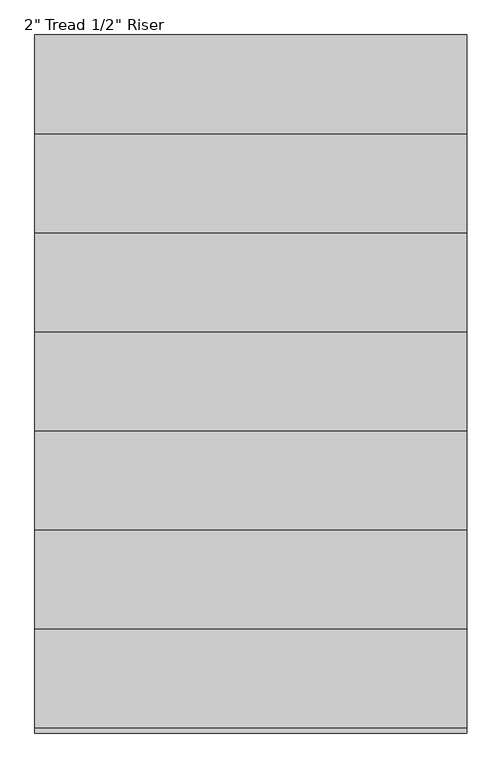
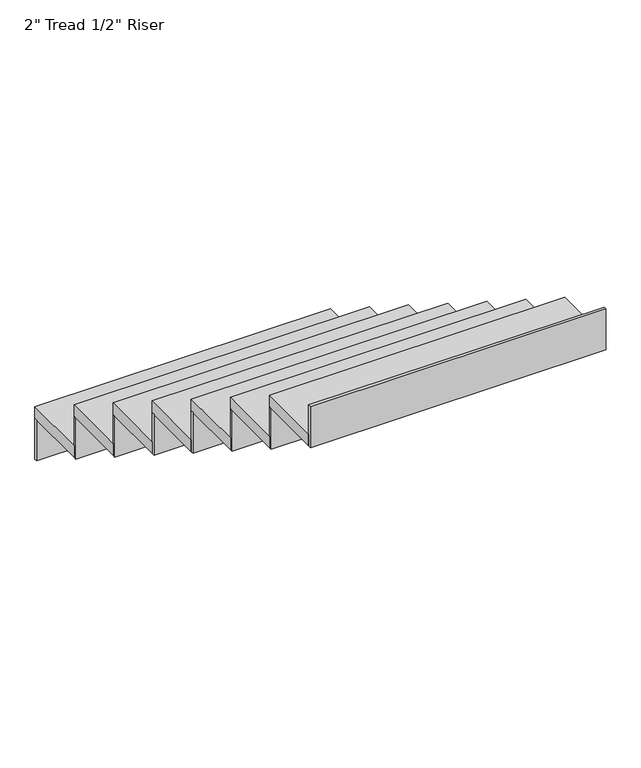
"""IFC4 building model written with IfcOpenShell, lengths in millimetres: stair flight geometry."""

import ifcopenshell
import ifcopenshell.guid

model = None  # the IFC model being written
_history = None  # IfcOwnerHistory: only IFC2X3 demands one
_inside = {}  # id of a spatial element -> (the spatial element, [elements in it])
_under = {}  # id of a project, library or spatial element -> (it, [spatial elements below it])
_declared = {}  # id of a project -> (the project, [libraries it declares])
_typed = {}  # id of a type object -> (the type object, [elements of that type])
_made_of = {}  # id of a material, layer set ... -> (it, [elements and type objects made of it])


def new_model(schema):
    """Start an empty IFC model of exactly this schema.

    Asked for "IFC4X3", IfcOpenShell would pick the latest addendum, in which some entities
    have other attributes; the version numbers below select the first issue.
    IFC2X3 requires an IfcOwnerHistory on every rooted entity: one is made here for all.
    """
    global model, _history
    if schema == "IFC4X3":
        model = ifcopenshell.file(schema_version=(4, 3, 0, 0))
    else:
        model = ifcopenshell.file(schema=schema)
    _inside.clear()
    _under.clear()
    _declared.clear()
    _typed.clear()
    _made_of.clear()
    _history = None
    if model.schema == "IFC2X3":
        org = make("IfcOrganization", Name="unknown")
        user = make(
            "IfcPersonAndOrganization",
            ThePerson=make("IfcPerson", FamilyName="unknown"),
            TheOrganization=org,
        )
        app = make(
            "IfcApplication",
            ApplicationDeveloper=org,
            Version="unknown",
            ApplicationFullName="unknown",
            ApplicationIdentifier="unknown",
        )
        _history = make(
            "IfcOwnerHistory",
            OwningUser=user,
            OwningApplication=app,
            ChangeAction="ADDED",
            CreationDate=0,
        )
    return model


def make(cls, **values):
    """One entity of the class cls with the attributes given. An attribute that is None is left unset."""
    return model.create_entity(
        cls, **{name: value for name, value in values.items() if value is not None}
    )


def rooted(cls, **values):
    """An entity with a GlobalId (a new one), such as an element, a storey or a relation."""
    return make(cls, GlobalId=ifcopenshell.guid.new(), OwnerHistory=_history, **values)


def si_unit(unit_type, name, prefix=None):
    """IfcSIUnit, for example si_unit("LENGTHUNIT", "METRE", prefix="MILLI")."""
    return make("IfcSIUnit", UnitType=unit_type, Prefix=prefix, Name=name)


def assignment(units):
    """IfcUnitAssignment: the units of a project."""
    return None if units is None else make("IfcUnitAssignment", Units=units)


def point(xyz):
    """IfcCartesianPoint."""
    return None if xyz is None else make("IfcCartesianPoint", Coordinates=xyz)


def direction(xyz):
    """IfcDirection."""
    return None if xyz is None else make("IfcDirection", DirectionRatios=xyz)


def frame(location, z_axis=None, x_axis=None):
    """IfcAxis2Placement3D, a coordinate frame: its origin and axes. An axis left out is left unset."""
    return make(
        "IfcAxis2Placement3D",
        Location=point(location),
        Axis=direction(z_axis),
        RefDirection=direction(x_axis),
    )


def origin():
    """The frame at (0, 0, 0) with its axes left unset."""
    return frame((0.0, 0.0, 0.0))


def place(relative_to, where):
    """IfcLocalPlacement: puts the frame where relative to a parent placement (None: the world)."""
    return make(
        "IfcLocalPlacement", PlacementRelTo=relative_to, RelativePlacement=where
    )


def context(
    kind, dimensions, precision=None, world=None, true_north=None, identifier=None
):
    """IfcGeometricRepresentationContext, for example the 3D "Model" context."""
    return make(
        "IfcGeometricRepresentationContext",
        ContextIdentifier=identifier,
        ContextType=kind,
        CoordinateSpaceDimension=dimensions,
        Precision=precision,
        WorldCoordinateSystem=world,
        TrueNorth=true_north,
    )


def project(units=None, contexts=None):
    """IfcProject with its units and contexts."""
    return rooted(
        "IfcProject",
        Name="project",
        RepresentationContexts=contexts,
        UnitsInContext=assignment(units),
    )


def spatial(cls, under=None, at=None, **own):
    """A site, building, storey or space (cls), placed at a placement, below another one or the project."""
    s = rooted(cls, ObjectPlacement=at, **own)
    if under is not None:
        _under.setdefault(under.id(), (under, []))[1].append(s)
    return s


def polyline(points):
    """IfcPolyline through the points."""
    return make("IfcPolyline", Points=[point(p) for p in points])


def outline(outer, holes=None, kind="AREA"):
    """IfcArbitraryClosedProfileDef: a profile drawn as a closed curve; with holes, ...WithVoids."""
    if holes is None:
        return make("IfcArbitraryClosedProfileDef", ProfileType=kind, OuterCurve=outer)
    return make(
        "IfcArbitraryProfileDefWithVoids",
        ProfileType=kind,
        OuterCurve=outer,
        InnerCurves=holes,
    )


def extrude(swept, where, along, depth):
    """IfcExtrudedAreaSolid: the profile swept, set in the frame where, extruded along a direction by depth."""
    return make(
        "IfcExtrudedAreaSolid",
        SweptArea=swept,
        Position=where,
        ExtrudedDirection=direction(along),
        Depth=depth,
    )


def shape(context_of_items, identifier, shape_type, items):
    """IfcShapeRepresentation: the items that make up one representation, for example the "Body"."""
    return make(
        "IfcShapeRepresentation",
        ContextOfItems=context_of_items,
        RepresentationIdentifier=identifier,
        RepresentationType=shape_type,
        Items=items,
    )


def source(mapping_origin, context_of_items, identifier, shape_type, items):
    """IfcRepresentationMap: a shape defined once, which mapped items show again and again."""
    return make(
        "IfcRepresentationMap",
        MappingOrigin=mapping_origin,
        MappedRepresentation=shape(context_of_items, identifier, shape_type, items),
    )


def transform(
    local_origin,
    x_axis=None,
    y_axis=None,
    z_axis=None,
    scale=None,
    scale2=None,
    scale3=None,
    uniform=True,
):
    """IfcCartesianTransformationOperator3D, or its non-uniform kind. x_axis, y_axis, z_axis: its Axis1, 2, 3."""
    if uniform:
        return make(
            "IfcCartesianTransformationOperator3D",
            Axis1=direction(x_axis),
            Axis2=direction(y_axis),
            LocalOrigin=point(local_origin),
            Scale=scale,
            Axis3=direction(z_axis),
        )
    return make(
        "IfcCartesianTransformationOperator3DnonUniform",
        Axis1=direction(x_axis),
        Axis2=direction(y_axis),
        LocalOrigin=point(local_origin),
        Scale=scale,
        Axis3=direction(z_axis),
        Scale2=scale2,
        Scale3=scale3,
    )


def mapped(mapping_source, mapping_target):
    """IfcMappedItem: shows the shape of a source again, moved by a transform."""
    return make(
        "IfcMappedItem", MappingSource=mapping_source, MappingTarget=mapping_target
    )


def made_of(thing, what):
    """Note that an element or type object is made of a material, layer set ...; save() writes the relation."""
    if what is not None:
        _made_of.setdefault(what.id(), (what, []))[1].append(thing)
    return thing


def element(
    cls,
    number,
    at=None,
    inside=None,
    cuts=None,
    type_object=None,
    material=None,
    context=None,
    identifier="Body",
    shape_type=None,
    held_by="IfcProductDefinitionShape",
    body=None,
    shapes=None,
    **own,
):
    """One element of the class cls, such as IfcWall. Its Tag is "e" and its number.

    at: its placement. inside: the storey or other place that contains it. cuts: it is an
    opening in that element (IfcRelVoidsElement). A single representation is given by context,
    identifier, shape_type and body (its items); several are given by shapes. held_by: the class
    of the entity that holds the representations. save() writes the other relations.
    """
    e = rooted(cls, Tag="e%d" % number, ObjectPlacement=at, **own)
    if body is not None:
        shapes = [shape(context, identifier, shape_type, body)]
    if shapes is not None:
        e.Representation = make(held_by, Representations=shapes)
    if inside is not None:
        _inside.setdefault(inside.id(), (inside, []))[1].append(e)
    if cuts is not None:
        rooted(
            "IfcRelVoidsElement", RelatingBuildingElement=cuts, RelatedOpeningElement=e
        )
    if type_object is not None:
        _typed.setdefault(type_object.id(), (type_object, []))[1].append(e)
    return made_of(e, material)


def aggregate(whole, parts):
    """IfcRelAggregates: a whole, such as a stair, and the parts it consists of."""
    return rooted("IfcRelAggregates", RelatingObject=whole, RelatedObjects=parts)


def save(model, path):
    """Write the relations noted so far, then the file.

    IfcRelAggregates (storeys below a building ...), IfcRelContainedInSpatialStructure (elements
    in a storey), IfcRelDefinesByType, IfcRelAssociatesMaterial and IfcRelDeclares: one each for
    every whole, place, type object, material and project.
    """
    for whole, parts in _under.values():
        aggregate(whole, parts)
    for where, things in _inside.values():
        rooted(
            "IfcRelContainedInSpatialStructure",
            RelatedElements=things,
            RelatingStructure=where,
        )
    for kind, things in _typed.values():
        rooted("IfcRelDefinesByType", RelatedObjects=things, RelatingType=kind)
    for what, things in _made_of.values():
        rooted("IfcRelAssociatesMaterial", RelatedObjects=things, RelatingMaterial=what)
    for by, libraries in _declared.values():
        rooted("IfcRelDeclares", RelatingContext=by, RelatedDefinitions=libraries)
    model.write(path)


def stair_flight_03273884(model_context):
    return source(origin(), model_context, "Body", "SweptSolid", [
        extrude(outline(polyline([(-8213.206756, 9925.1006), (-8213.206756, 9937.8006), (-6994.006756, 9937.8006), (-6994.006756, 9925.1006), (-8213.206756, 9925.1006)])), frame((0.0, 0.0, 1371.6), z_axis=(0.0, 0.0, 1.0), x_axis=(1.0, 0.0, 0.0)), (0.0, 0.0, 1.0), 177.8),
        extrude(outline(polyline([(-6994.006756, 9658.4006), (-8213.206756, 9658.4006), (-8213.206756, 9937.8006), (-6994.006756, 9937.8006), (-6994.006756, 9658.4006)])), frame((0.0, 0.0, 1549.4), z_axis=(0.0, 0.0, 1.0), x_axis=(1.0, 0.0, 0.0)), (0.0, 0.0, 1.0), 50.8),
        extrude(outline(polyline([(-8213.206756, 9645.7006), (-8213.206756, 9658.4006), (-6994.006756, 9658.4006), (-6994.006756, 9645.7006), (-8213.206756, 9645.7006)])), frame((0.0, 0.0, 1549.4), z_axis=(0.0, 0.0, 1.0), x_axis=(1.0, 0.0, 0.0)), (0.0, 0.0, 1.0), 177.8),
        extrude(outline(polyline([(-6994.006756, 9379.0006), (-8213.206756, 9379.0006), (-8213.206756, 9658.4006), (-6994.006756, 9658.4006), (-6994.006756, 9379.0006)])), frame((0.0, 0.0, 1727.2), z_axis=(0.0, 0.0, 1.0), x_axis=(1.0, 0.0, 0.0)), (0.0, 0.0, 1.0), 50.8),
        extrude(outline(polyline([(-8213.206756, 9366.3006), (-8213.206756, 9379.0006), (-6994.006756, 9379.0006), (-6994.006756, 9366.3006), (-8213.206756, 9366.3006)])), frame((0.0, 0.0, 1727.2), z_axis=(0.0, 0.0, 1.0), x_axis=(1.0, 0.0, 0.0)), (0.0, 0.0, 1.0), 177.8),
        extrude(outline(polyline([(-6994.006756, 9099.6006), (-8213.206756, 9099.6006), (-8213.206756, 9379.0006), (-6994.006756, 9379.0006), (-6994.006756, 9099.6006)])), frame((0.0, 0.0, 1905.0), z_axis=(0.0, 0.0, 1.0), x_axis=(1.0, 0.0, 0.0)), (0.0, 0.0, 1.0), 50.8),
        extrude(outline(polyline([(-8213.206756, 9086.9006), (-8213.206756, 9099.6006), (-6994.006756, 9099.6006), (-6994.006756, 9086.9006), (-8213.206756, 9086.9006)])), frame((0.0, 0.0, 1905.0), z_axis=(0.0, 0.0, 1.0), x_axis=(1.0, 0.0, 0.0)), (0.0, 0.0, 1.0), 177.8),
        extrude(outline(polyline([(-6994.006756, 8820.2006), (-8213.206756, 8820.2006), (-8213.206756, 9099.6006), (-6994.006756, 9099.6006), (-6994.006756, 8820.2006)])), frame((0.0, 0.0, 2082.8), z_axis=(0.0, 0.0, 1.0), x_axis=(1.0, 0.0, 0.0)), (0.0, 0.0, 1.0), 50.8),
        extrude(outline(polyline([(-8213.206756, 8807.5006), (-8213.206756, 8820.2006), (-6994.006756, 8820.2006), (-6994.006756, 8807.5006), (-8213.206756, 8807.5006)])), frame((0.0, 0.0, 2082.8), z_axis=(0.0, 0.0, 1.0), x_axis=(1.0, 0.0, 0.0)), (0.0, 0.0, 1.0), 177.8),
        extrude(outline(polyline([(-6994.006756, 8540.8006), (-8213.206756, 8540.8006), (-8213.206756, 8820.2006), (-6994.006756, 8820.2006), (-6994.006756, 8540.8006)])), frame((0.0, 0.0, 2260.6), z_axis=(0.0, 0.0, 1.0), x_axis=(1.0, 0.0, 0.0)), (0.0, 0.0, 1.0), 50.8),
        extrude(outline(polyline([(-8213.206756, 8528.1006), (-8213.206756, 8540.8006), (-6994.006756, 8540.8006), (-6994.006756, 8528.1006), (-8213.206756, 8528.1006)])), frame((0.0, 0.0, 2260.6), z_axis=(0.0, 0.0, 1.0), x_axis=(1.0, 0.0, 0.0)), (0.0, 0.0, 1.0), 177.8),
        extrude(outline(polyline([(-6994.006756, 8261.4006), (-8213.206756, 8261.4006), (-8213.206756, 8540.8006), (-6994.006756, 8540.8006), (-6994.006756, 8261.4006)])), frame((0.0, 0.0, 2438.4), z_axis=(0.0, 0.0, 1.0), x_axis=(1.0, 0.0, 0.0)), (0.0, 0.0, 1.0), 50.8),
        extrude(outline(polyline([(-8213.206756, 8248.7006), (-8213.206756, 8261.4006), (-6994.006756, 8261.4006), (-6994.006756, 8248.7006), (-8213.206756, 8248.7006)])), frame((0.0, 0.0, 2438.4), z_axis=(0.0, 0.0, 1.0), x_axis=(1.0, 0.0, 0.0)), (0.0, 0.0, 1.0), 177.8),
        extrude(outline(polyline([(-8213.206756, 7969.3006), (-8213.206756, 7982.0006), (-6994.006756, 7982.0006), (-6994.006756, 7969.3006), (-8213.206756, 7969.3006)])), frame((0.0, 0.0, 2616.2), z_axis=(0.0, 0.0, 1.0), x_axis=(1.0, 0.0, 0.0)), (0.0, 0.0, 1.0), 177.8),
        extrude(outline(polyline([(-6994.006756, 7982.0006), (-8213.206756, 7982.0006), (-8213.206756, 8261.4006), (-6994.006756, 8261.4006), (-6994.006756, 7982.0006)])), frame((0.0, 0.0, 2616.2), z_axis=(0.0, 0.0, 1.0), x_axis=(1.0, 0.0, 0.0)), (0.0, 0.0, 1.0), 50.8),
    ])


if __name__ == "__main__":
    model = new_model("IFC4")
    model_context = context("Model", 3, world=origin())
    ifc_project = project(units=[si_unit("LENGTHUNIT", "METRE", prefix="MILLI")], contexts=[model_context])
    site = spatial("IfcSite", under=ifc_project)
    building = spatial("IfcBuilding", under=site)
    placement = place(None, origin())
    stair_flight_shape = stair_flight_03273884(model_context)
    element("IfcStairFlight", 1, ObjectType="2\" Tread 1/2\" Riser", at=placement, inside=building, context=model_context, shape_type="MappedRepresentation", body=[
        mapped(stair_flight_shape, transform((0.0, 0.0, 0.0), x_axis=(1.0, 0.0, 0.0), y_axis=(0.0, 1.0, 0.0), z_axis=(0.0, 0.0, 1.0))),
    ])
    save(model, "model.ifc")
